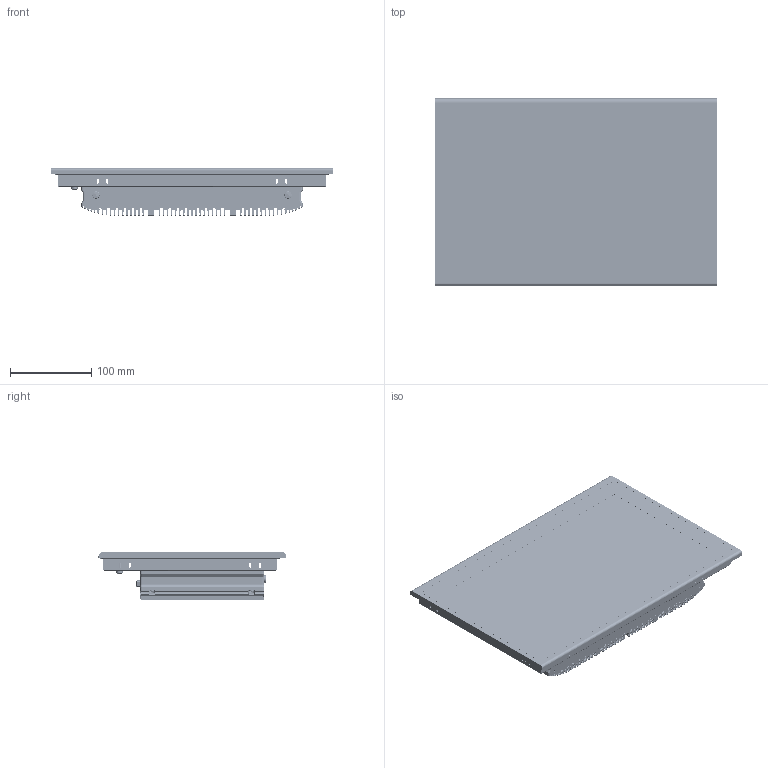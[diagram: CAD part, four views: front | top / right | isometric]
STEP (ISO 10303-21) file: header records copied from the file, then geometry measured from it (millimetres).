
FILE_DESCRIPTION((''),'2;1');
FILE_NAME('FPM-1303-20250228','2025-08-02T22:58:30',('anthony'),(''),'CREO PARAMETRIC BY PTC INC, 2024063','CREO PARAMETRIC BY PTC INC, 2024063','');
FILE_SCHEMA(('CONFIG_CONTROL_DESIGN','SHAPE_APPEARANCE_LAYERS_GROUPS'));
Products named in the file (1): FPM-1303-20250228
Bounding box: 347.2 x 229.8 x 58.38 mm (x, y, z)
Volume: 796371.6 mm3; surface area: 734554.5 mm2
Topology: 36 solids, 60 shells, 7159 faces, 22382 edges, 15414 vertices
Faces by surface type: plane 3896, cylinder 2859, cone 236, torus 88, bspline 62, sphere 14, revolution 4
Entity records: 308538 total; most frequent: CARTESIAN_POINT 56933, ORIENTED_EDGE 44496, DIRECTION 41585, EDGE_CURVE 22339, VERTEX_POINT 15415, AXIS2_PLACEMENT_3D 14324, PRESENTATION_STYLE_ASSIGNMENT 14121, STYLED_ITEM 13754
